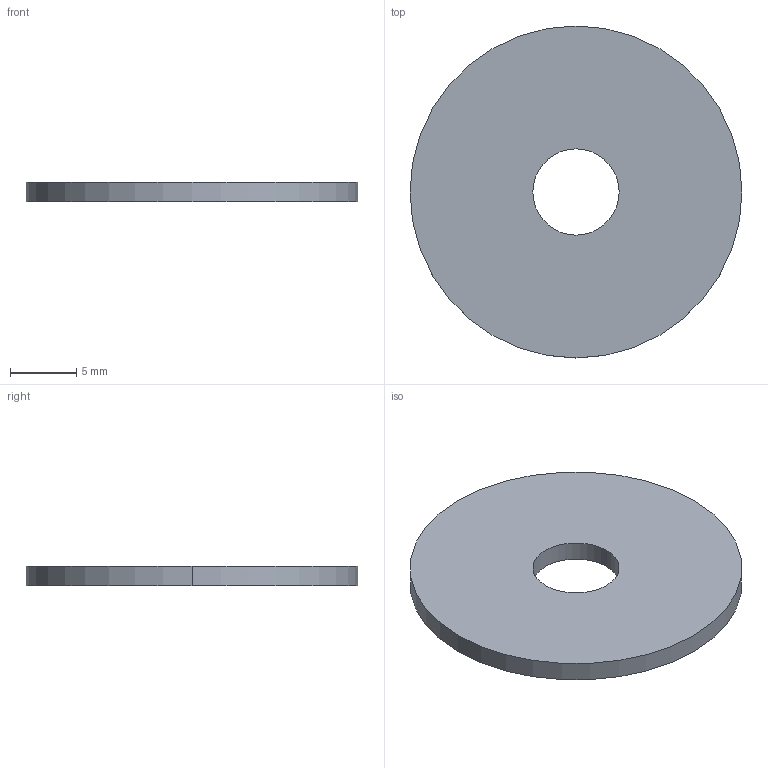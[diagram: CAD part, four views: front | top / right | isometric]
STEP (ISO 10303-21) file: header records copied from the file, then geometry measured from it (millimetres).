
FILE_DESCRIPTION (( 'STEP AP203' ), '1' );
FILE_NAME ('P0333.060-025-A4.step', '2018-12-17T19:08:16', ( '' ), ( '' ), 'SwSTEP 2.0', 'SolidWorks 2017', '' );
FILE_SCHEMA (( 'CONFIG_CONTROL_DESIGN' ));
Length unit declared in the file: millimetre
Products named in the file (1): P0333.060-025-A4
Bounding box: 25 x 25 x 1.5 mm (x, y, z)
Volume: 686.5 mm3; surface area: 1063.8 mm2
Topology: 1 solids, 1 shells, 6 faces, 12 edges, 8 vertices
Faces by surface type: cylinder 4, plane 2
Entity records: 245 total; most frequent: DIRECTION 34, CARTESIAN_POINT 27, ORIENTED_EDGE 24, AXIS2_PLACEMENT_3D 15, EDGE_CURVE 12, VERTEX_POINT 8, CIRCLE 8, PERSON_AND_ORGANIZATION 8
